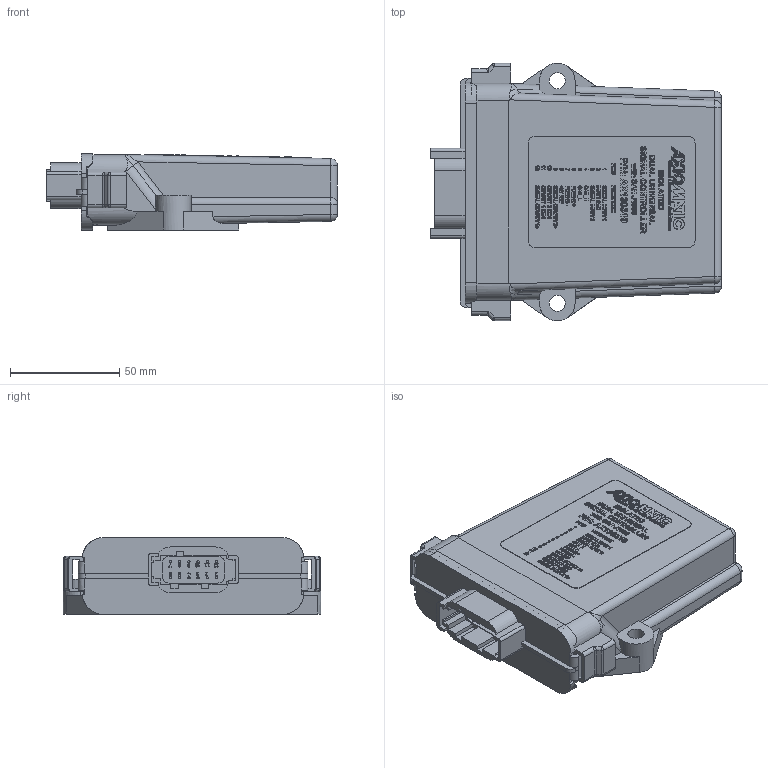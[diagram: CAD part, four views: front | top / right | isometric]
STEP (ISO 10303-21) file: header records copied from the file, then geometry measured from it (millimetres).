
FILE_DESCRIPTION(/* description */ ('DTM series 12 way receptacle enclosure'),/* implementation_level */ '2;1');
FILE_NAME(/* name */ 'S:\Projects\2IN-2OUT-SIG-D, AX130510, Proj_14004\MECHANICAL\rev A\AX130510.stp',/* time_stamp */ '2016-01-13T11:54:15-05:00',/* author */ ('tfisher'),/* organization */ (''),/* preprocessor_version */ 'ST-DEVELOPER v15.2',/* originating_system */ 'Autodesk Inventor 2014',/* authorisation */ '');
FILE_SCHEMA (('AUTOMOTIVE_DESIGN { 1 0 10303 214 3 1 1 }'));
Products named in the file (8): DEUT-DTM13-12PA-R008 shrinkwrap; MS-4-40X375SSPPU; SPAE HN-2002 4-40 hex nut; DTM1312PA12PB gasket; EEC-325X4B housing; MG-14004-01 for STEP; LBM-AX130510-01R1 for STEP; AX130510 for STEP
Bounding box: 132.9 x 117.86 x 35 mm (x, y, z)
Volume: 125335.9 mm3; surface area: 99810.9 mm2
Topology: 8 solids, 8 shells, 4288 faces, 11451 edges, 7580 vertices
Faces by surface type: plane 2838, bspline 1141, cylinder 214, cone 58, torus 25, sphere 12
Full cylindrical faces by diameter (mm): 1.041 x48, 2.156 x2, 2.845 x2, 5.563 x2, 7.366 x2
Entity records: 140106 total; most frequent: CARTESIAN_POINT 38024, ORIENTED_EDGE 22496, DIRECTION 15678, EDGE_CURVE 11248, LINE 8368, VECTOR 8368, VERTEX_POINT 7502, EDGE_LOOP 4774
